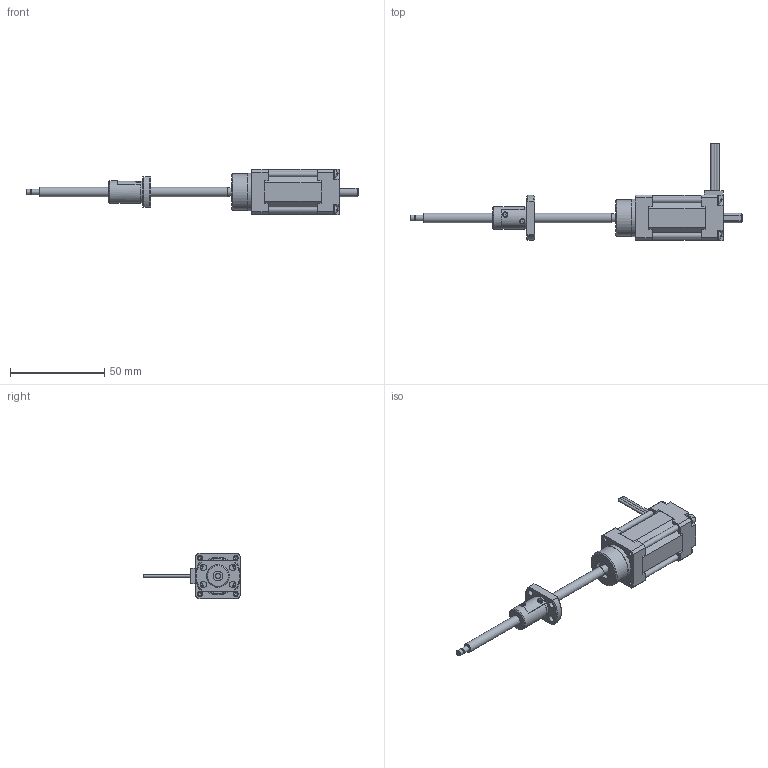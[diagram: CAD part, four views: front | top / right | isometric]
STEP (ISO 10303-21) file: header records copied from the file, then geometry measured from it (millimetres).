
FILE_DESCRIPTION( ( 'STEP AP214' ), ' ' );
FILE_NAME( 'p:/temp/worker_2/3216_2592/app_85_12017090514275396704241260eae72_000000_00_00_000000/format_0/TMB0504(37).stp', '2017-09-05T12:27:54', ( '' ), ( '' ), ' ', 'PARTsolutions', ' ' );
FILE_SCHEMA( ( 'AUTOMOTIVE_DESIGN { 1 0 10303 214 1 1 1 1 }' ) );
Length unit declared in the file: millimetre
Products named in the file (3): TMB0504(37); _TMB0504 (0)motor; _TMB0504 (37)nut
Assembly tree (2 placements, depth 2):
  TMB0504(37)
    _TMB0504 (0)motor
    _TMB0504 (37)nut
Bounding box: 176 x 51.5 x 24 mm (x, y, z)
Volume: 32992.9 mm3; surface area: 11416.6 mm2
Topology: 2 solids, 2 shells, 234 faces, 617 edges, 405 vertices
Faces by surface type: plane 164, cylinder 50, cone 16, bspline 4
Full cylindrical faces by diameter (mm): 1.5 x3, 2.113 x4, 2.2 x2, 2.7 x1, 2.8 x2, 3 x2, 3.4 x4, 4.3 x1, 5 x6, 10 x1, 11.5 x1, 12 x1, 19.5 x1, 20 x1
Entity records: 9061 total; most frequent: CARTESIAN_POINT 1658, ORIENTED_EDGE 1102, DIRECTION 1079, EDGE_CURVE 551, VERTEX_POINT 388, LINE 369, VECTOR 369, AXIS2_PLACEMENT_3D 355
